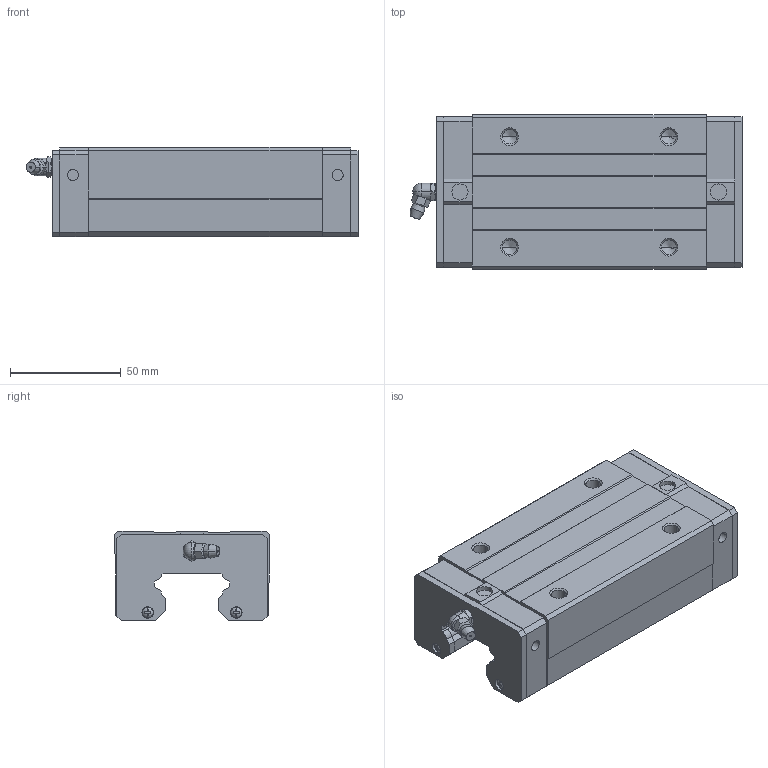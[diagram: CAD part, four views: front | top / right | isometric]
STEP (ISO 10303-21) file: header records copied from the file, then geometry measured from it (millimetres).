
FILE_DESCRIPTION(('starvars output'),'2;1');
FILE_NAME('cv20190625225838000065181.stp','22:58:38 2019/06/25',( 'Thomas Industrial Network Germany GmbH'),( 'Thomas Industrial Network Germany GmbH'),'unknown preprocess','ACIS' ,'unknown authorization');
FILE_SCHEMA(('CONFIG_CONTROL_DESIGN {UNKNOWN IMPLEMENTATION LEVEL}'));
Length unit declared in the file: millimetre
Products named in the file (10): PRODUCT_ID_1; PRODUCT_ID_2; PRODUCT_ID_3; PRODUCT_ID_4; PRODUCT_ID_5; PRODUCT_ID_6; PRODUCT_ID_7; PRODUCT_ID_8; PRODUCT_ID_9; PRODUCT_ID_10
Bounding box: 150.2 x 70 x 40.5 mm (x, y, z)
Volume: 296751.1 mm3; surface area: 60166.3 mm2
Topology: 10 solids, 10 shells, 379 faces, 962 edges, 612 vertices
Faces by surface type: plane 240, cone 64, cylinder 63, sphere 12
Entity records: 10951 total; most frequent: ORIENTED_EDGE 1900, CARTESIAN_POINT 1789, DIRECTION 1489, EDGE_CURVE 950, VECTOR 613, LINE 613, VERTEX_POINT 612, AXIS2_PLACEMENT_3D 438
